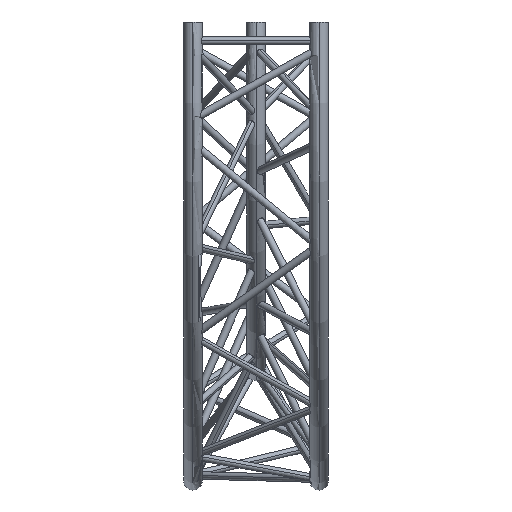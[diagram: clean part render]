
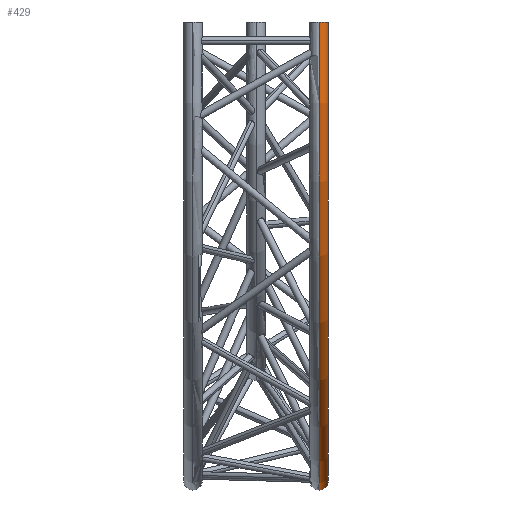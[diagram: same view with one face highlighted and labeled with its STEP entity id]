
A CAD part, left-side view. The second image highlights one B-rep face of the part: STEP entity #429.
In plain terms, the highlighted toroidal (fillet/blend) face has major radius 1225 mm and minor radius 25 mm.
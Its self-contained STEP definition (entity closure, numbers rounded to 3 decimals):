
#111 = EDGE_CURVE ( 'NONE', #121, #119, #2186, .T. ) ;
#119 = VERTEX_POINT ( 'NONE', #2303 ) ;
#121 = VERTEX_POINT ( 'NONE', #2301 ) ;
#398 = ORIENTED_EDGE ( 'NONE', *, *, #400, .T. ) ;
#400 = EDGE_CURVE ( 'NONE', #401, #402, #3369, .T. ) ;
#401 = VERTEX_POINT ( 'NONE', #3364 ) ;
#402 = VERTEX_POINT ( 'NONE', #3363 ) ;
#410 = ORIENTED_EDGE ( 'NONE', *, *, #412, .T. ) ;
#412 = EDGE_CURVE ( 'NONE', #402, #121, #3495, .T. ) ;
#416 = ORIENTED_EDGE ( 'NONE', *, *, #111, .T. ) ;
#418 = ORIENTED_EDGE ( 'NONE', *, *, #420, .F. ) ;
#420 = EDGE_CURVE ( 'NONE', #401, #119, #3566, .T. ) ;
#429 = ADVANCED_FACE ( 'NONE', ( #3655 ), #3654, .T. ) ;
#434 = EDGE_LOOP ( 'NONE', ( #398, #410, #416, #418 ) ) ;
#2183 = DIRECTION ( 'NONE',  ( -1., 0., 0. ) ) ;
#2184 = CARTESIAN_POINT ( 'NONE',  ( 0., -168.5, -1225. ) ) ;
#2185 = AXIS2_PLACEMENT_3D ( 'NONE', #2184, #2183, #2267 ) ;
#2186 = CIRCLE ( 'NONE', #2185, 25. ) ;
#2267 = DIRECTION ( 'NONE',  ( 0., 0., 1. ) ) ;
#2301 = CARTESIAN_POINT ( 'NONE',  ( 0., -168.5, -1250. ) ) ;
#2303 = CARTESIAN_POINT ( 'NONE',  ( 0., -168.5, -1200. ) ) ;
#3363 = CARTESIAN_POINT ( 'NONE',  ( -1250., -168.5, 0. ) ) ;
#3364 = CARTESIAN_POINT ( 'NONE',  ( -1200., -168.5, 0. ) ) ;
#3365 = DIRECTION ( 'NONE',  ( -1., 0., 0. ) ) ;
#3366 = DIRECTION ( 'NONE',  ( 0., 0., -1. ) ) ;
#3367 = CARTESIAN_POINT ( 'NONE',  ( -1225., -168.5, 0. ) ) ;
#3368 = AXIS2_PLACEMENT_3D ( 'NONE', #3367, #3366, #3365 ) ;
#3369 = CIRCLE ( 'NONE', #3368, 25. ) ;
#3491 = DIRECTION ( 'NONE',  ( 0., 0., -1. ) ) ;
#3492 = DIRECTION ( 'NONE',  ( 0., -1., 0. ) ) ;
#3493 = CARTESIAN_POINT ( 'NONE',  ( 0., -168.5, 0. ) ) ;
#3494 = AXIS2_PLACEMENT_3D ( 'NONE', #3493, #3492, #3491 ) ;
#3495 = CIRCLE ( 'NONE', #3494, 1250. ) ;
#3562 = DIRECTION ( 'NONE',  ( 0., 0., -1. ) ) ;
#3563 = DIRECTION ( 'NONE',  ( 0., -1., 0. ) ) ;
#3564 = CARTESIAN_POINT ( 'NONE',  ( 0., -168.5, 0. ) ) ;
#3565 = AXIS2_PLACEMENT_3D ( 'NONE', #3564, #3563, #3562 ) ;
#3566 = CIRCLE ( 'NONE', #3565, 1200. ) ;
#3650 = DIRECTION ( 'NONE',  ( 0., 0., -1. ) ) ;
#3651 = DIRECTION ( 'NONE',  ( 0., -1., 0. ) ) ;
#3652 = AXIS2_PLACEMENT_3D ( 'NONE', #3653, #3651, #3650 ) ;
#3653 = CARTESIAN_POINT ( 'NONE',  ( 0., -168.5, 0. ) ) ;
#3654 = TOROIDAL_SURFACE ( 'NONE', #3652, 1225., 25. ) ;
#3655 = FACE_OUTER_BOUND ( 'NONE', #434, .T. ) ;
